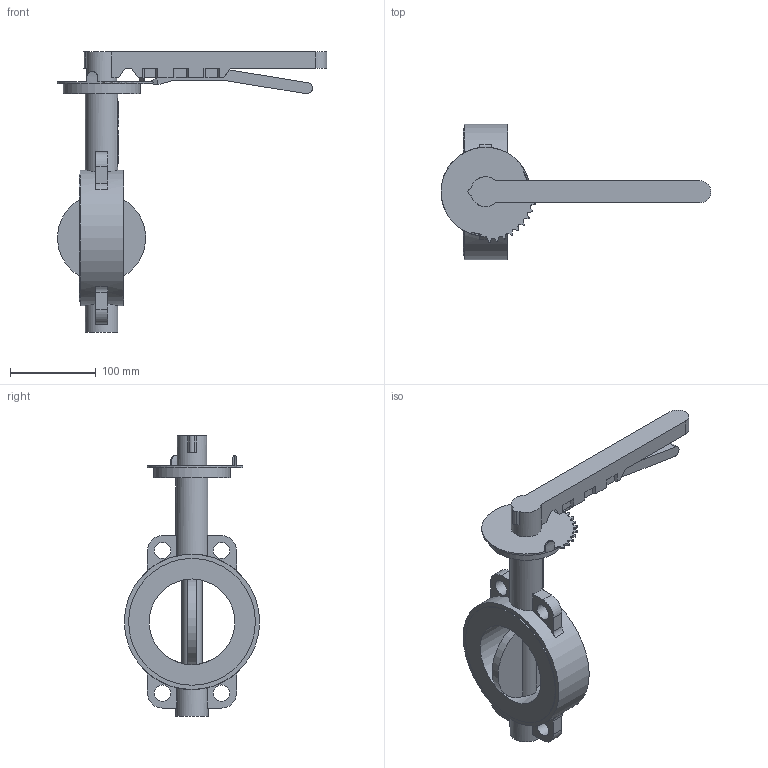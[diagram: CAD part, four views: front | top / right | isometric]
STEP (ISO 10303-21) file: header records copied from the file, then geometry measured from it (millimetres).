
FILE_DESCRIPTION(('STEP AP203'), '1');
FILE_NAME('Çàòâîð 017W.ZS DN100 PN10_16 ðóêîÿòêà', '', ('UNSPECIFIED'), ('UNSPECIFIED'), 'ASCON STEP Converter 1.6', 'ASCON Math Kernel', '');
FILE_SCHEMA(('CONFIG_CONTROL_DESIGN'));
Length unit declared in the file: millimetre
Bounding box: 315 x 158 x 327 mm (x, y, z)
Volume: 222768.4 mm3; surface area: 180780.6 mm2
Topology: 1 solids, 2 shells, 737 faces, 2175 edges, 1403 vertices
Faces by surface type: cylinder 488, plane 249
Full cylindrical faces by diameter (mm): 10 x4, 15.9 x1, 19 x4, 35 x1, 38 x2, 55 x1, 90 x1, 100 x1, 148 x2, 158 x1
Entity records: 31766 total; most frequent: CARTESIAN_POINT 5279, DIRECTION 4634, ORIENTED_EDGE 4253, EDGE_CURVE 2158, AXIS2_PLACEMENT_3D 1770, VERTEX_POINT 1403, LINE 1094, VECTOR 1094
